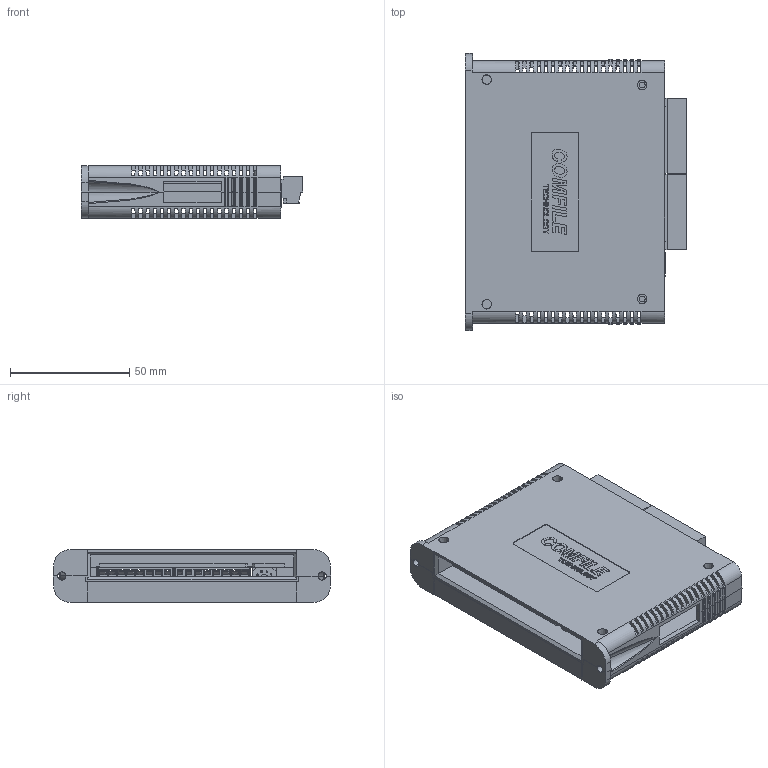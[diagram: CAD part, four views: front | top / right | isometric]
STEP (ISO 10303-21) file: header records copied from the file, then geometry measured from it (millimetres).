
FILE_DESCRIPTION (( 'STEP AP214' ), '1' );
FILE_NAME ('RS-EDOR8_ASM.STEP', '2016-06-14T04:20:42', ( 'Registered User' ), ( 'Microsoft Corporation' ), 'SwSTEP 2.0', 'SolidWorks 2014', '' );
FILE_SCHEMA (( 'AUTOMOTIVE_DESIGN' ));
Length unit declared in the file: millimetre
Products named in the file (1): RS-EDOR8_ASM
Bounding box: 92.6 x 116 x 22 mm (x, y, z)
Surface area: 48539 mm2 (no closed solid volume)
Topology: 0 solids, 17 shells, 1115 faces, 4406 edges, 3131 vertices
Faces by surface type: plane 910, cylinder 180, bspline 17, cone 8
Entity records: 58756 total; most frequent: CARTESIAN_POINT 12250, ORIENTED_EDGE 6781, DIRECTION 6326, EDGE_CURVE 4406, VECTOR 3494, LINE 3494, VERTEX_POINT 3131, AXIS2_PLACEMENT_3D 1416
